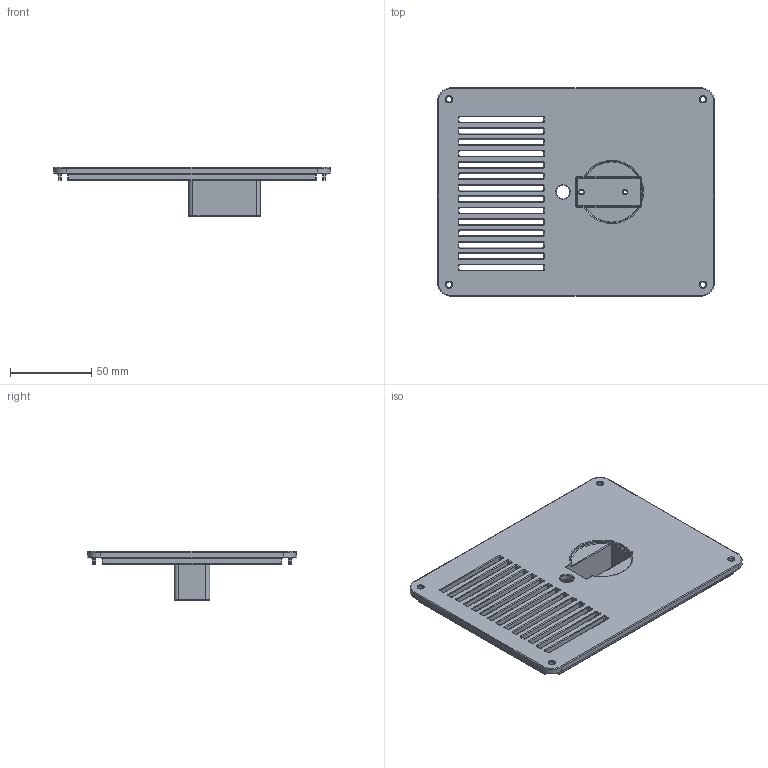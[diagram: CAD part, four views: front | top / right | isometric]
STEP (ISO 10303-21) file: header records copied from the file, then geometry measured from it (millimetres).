
FILE_DESCRIPTION(('Open CASCADE Model'),'2;1');
FILE_NAME('Open CASCADE Shape Model','2026-11-19T06:39:55',('Author'),( 'Open CASCADE'),'Open CASCADE STEP processor 8.0','Open CASCADE 8.0' ,'Unknown');
FILE_SCHEMA(('AUTOMOTIVE_DESIGN { 1 0 10303 214 1 1 1 1 }'));
Length unit declared in the file: millimetre
Products named in the file (1): Open CASCADE STEP translator 8.0 19
Bounding box: 170 x 128 x 30.2 mm (x, y, z)
Volume: 85247.1 mm3; surface area: 56576.5 mm2
Topology: 1 solids, 1 shells, 593 faces, 1365 edges, 754 vertices
Faces by surface type: cylinder 286, torus 176, plane 99, sphere 26, bspline 6
Full cylindrical faces by diameter (mm): 2.4 x2, 3.55 x4, 8.15 x1
Entity records: 34225 total; most frequent: CARTESIAN_POINT 7626, DIRECTION 5044, ORIENTED_EDGE 2678, PCURVE 2678, DEFINITIONAL_REPRESENTATION 2678, LINE 2269, VECTOR 2269, AXIS2_PLACEMENT_3D 1344
